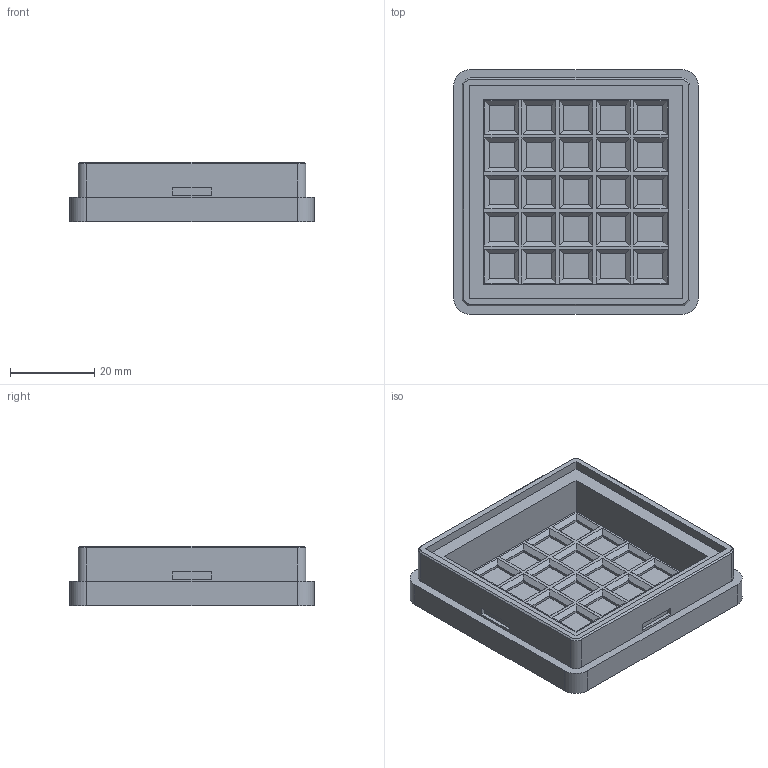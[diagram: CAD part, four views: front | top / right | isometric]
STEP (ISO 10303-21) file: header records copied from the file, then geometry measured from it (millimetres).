
FILE_DESCRIPTION(('FreeCAD Model'),'2;1');
FILE_NAME('Open CASCADE Shape Model','2026-10-02T22:08:34',('Author'),( ''),'Open CASCADE STEP processor 7.8','FreeCAD','Unknown');
FILE_SCHEMA(('AUTOMOTIVE_DESIGN { 1 0 10303 214 1 1 1 1 }'));
Length unit declared in the file: millimetre
Products named in the file (1): DiceBox_Slim_Base
Bounding box: 58 x 58 x 14.2 mm (x, y, z)
Volume: 19001 mm3; surface area: 12498.2 mm2
Topology: 1 solids, 1 shells, 407 faces, 936 edges, 588 vertices
Faces by surface type: plane 295, bspline 100, cylinder 8, cone 4
Entity records: 10936 total; most frequent: CARTESIAN_POINT 2432, ORIENTED_EDGE 1872, DIRECTION 1372, EDGE_CURVE 936, LINE 716, VECTOR 716, VERTEX_POINT 588, FACE_BOUND 464
